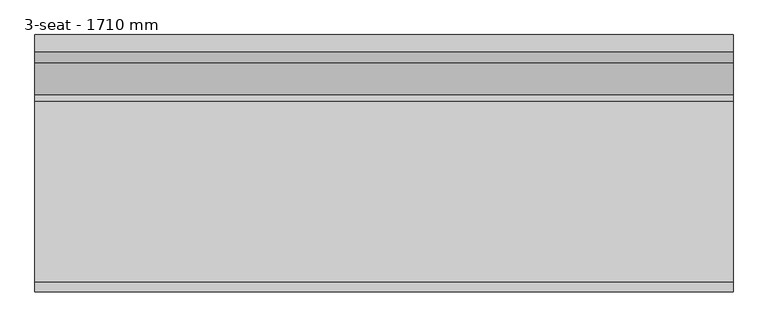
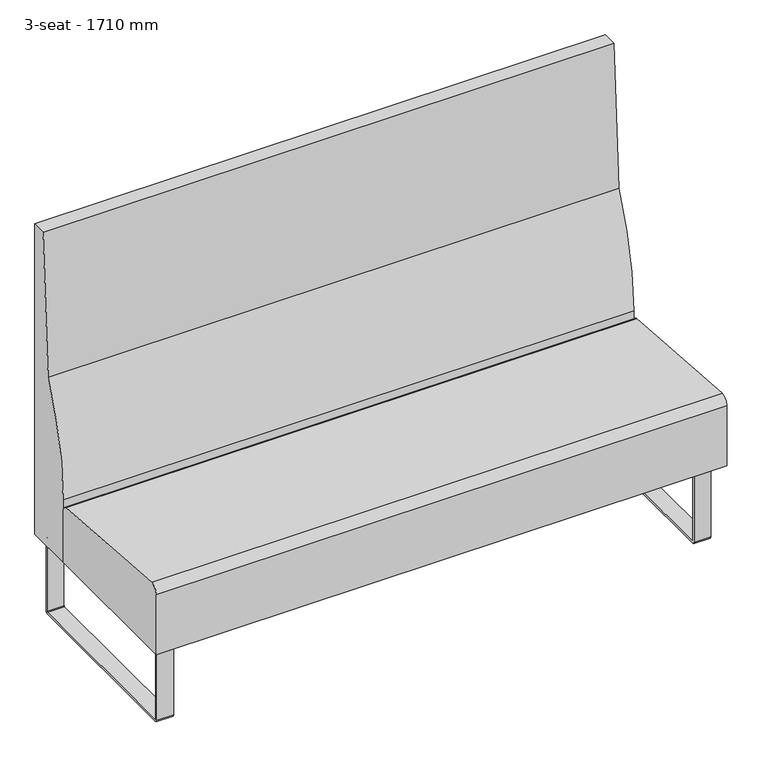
"""IFC4 building model written with IfcOpenShell, lengths in millimetres: furniture geometry, MATERIA-Monolite-Sofa-Extended_Back : 3-seat - 1710 mm."""

from ifc_helpers import new_model, si_unit, point, frame, frame_2d, origin, place, context, project, spatial, polyline, circle_curve, trimmed, segment, composite_curve, outline, extrude, source, transform, mapped, element, save


def furniture_3_seat_1710_mm_4decf27b(model_context):
    return source(origin(), model_context, "Body", "SweptSolid", [
        extrude(outline(composite_curve([segment(trimmed(circle_curve(frame_2d((-23.0000292, 239.0000149)), 8.0), [point((-23.0000292, 247.0000149))], [point((-15.0000292, 239.0000149))], False, "CARTESIAN"), True, "CONTINUOUS"), segment(polyline([(-15.0000292, 239.0000149), (-15.0000292, 8.0)]), True, "CONTINUOUS"), segment(trimmed(circle_curve(frame_2d((-23.0000292, 8.0)), 8.0), [point((-15.0000292, 8.0))], [point((-23.0000292, 0.0))], False, "CARTESIAN"), True, "CONTINUOUS"), segment(polyline([(-23.0000292, 0.0), (-582.0, 0.0)]), True, "CONTINUOUS"), segment(trimmed(circle_curve(frame_2d((-582.0, 8.0)), 8.0), [point((-582.0, 0.0))], [point((-590.0, 8.0))], False, "CARTESIAN"), True, "CONTINUOUS"), segment(polyline([(-590.0, 8.0), (-590.0, 248.000015), (-584.0, 248.000015), (-584.0, 8.0)]), True, "CONTINUOUS"), segment(trimmed(circle_curve(frame_2d((-582.0, 8.0)), 2.0), [point((-584.0, 8.0))], [point((-582.0, 6.0))], True, "CARTESIAN"), True, "CONTINUOUS"), segment(polyline([(-582.0, 6.0), (-23.0000292, 6.0)]), True, "CONTINUOUS"), segment(trimmed(circle_curve(frame_2d((-23.0000292, 8.0)), 2.0), [point((-23.0000292, 6.0))], [point((-21.0000292, 8.0))], True, "CARTESIAN"), True, "CONTINUOUS"), segment(polyline([(-21.0000292, 8.0), (-21.0000292, 239.0000149)]), True, "CONTINUOUS"), segment(trimmed(circle_curve(frame_2d((-23.0000292, 239.0000149)), 2.0), [point((-21.0000292, 239.0000149))], [point((-23.0000292, 241.0000149))], True, "CARTESIAN"), True, "CONTINUOUS"), segment(polyline([(-23.0000292, 241.0000149), (-123.0000504, 241.0000149), (-123.0000504, 247.0000149), (-23.0000292, 247.0000149)]), True, "CONTINUOUS")], self_intersect=False)), frame((779.9999917, 0.0, 0.0), z_axis=(1.0, 0.0, 0.0), x_axis=(0.0, 1.0, 0.0)), (0.0, 0.0, 1.0), 49.999964),
        extrude(outline(composite_curve([segment(trimmed(circle_curve(frame_2d((-23.0000292, 239.0000149)), 8.0), [point((-23.0000292, 247.0000149))], [point((-15.0000292, 239.0000149))], False, "CARTESIAN"), True, "CONTINUOUS"), segment(polyline([(-15.0000292, 239.0000149), (-15.0000292, 8.0)]), True, "CONTINUOUS"), segment(trimmed(circle_curve(frame_2d((-23.0000292, 8.0)), 8.0), [point((-15.0000292, 8.0))], [point((-23.0000292, 0.0))], False, "CARTESIAN"), True, "CONTINUOUS"), segment(polyline([(-23.0000292, 0.0), (-582.0, 0.0)]), True, "CONTINUOUS"), segment(trimmed(circle_curve(frame_2d((-582.0, 8.0)), 8.0), [point((-582.0, 0.0))], [point((-590.0, 8.0))], False, "CARTESIAN"), True, "CONTINUOUS"), segment(polyline([(-590.0, 8.0), (-590.0, 248.000015), (-584.0, 248.000015), (-584.0, 8.0)]), True, "CONTINUOUS"), segment(trimmed(circle_curve(frame_2d((-582.0, 8.0)), 2.0), [point((-584.0, 8.0))], [point((-582.0, 6.0))], True, "CARTESIAN"), True, "CONTINUOUS"), segment(polyline([(-582.0, 6.0), (-23.0000292, 6.0)]), True, "CONTINUOUS"), segment(trimmed(circle_curve(frame_2d((-23.0000292, 8.0)), 2.0), [point((-23.0000292, 6.0))], [point((-21.0000292, 8.0))], True, "CARTESIAN"), True, "CONTINUOUS"), segment(polyline([(-21.0000292, 8.0), (-21.0000292, 239.0000149)]), True, "CONTINUOUS"), segment(trimmed(circle_curve(frame_2d((-23.0000292, 239.0000149)), 2.0), [point((-21.0000292, 239.0000149))], [point((-23.0000292, 241.0000149))], True, "CARTESIAN"), True, "CONTINUOUS"), segment(polyline([(-23.0000292, 241.0000149), (-123.0000504, 241.0000149), (-123.0000504, 247.0000149), (-23.0000292, 247.0000149)]), True, "CONTINUOUS")], self_intersect=False)), frame((-829.9999557, 0.0, 0.0), z_axis=(1.0, 0.0, 0.0), x_axis=(0.0, 1.0, 0.0)), (0.0, 0.0, 1.0), 49.999964),
        extrude(outline(composite_curve([segment(polyline([(-147.0000389, 248.000015), (-630.0, 248.000015), (-630.0, 437.2884276)]), True, "CONTINUOUS"), segment(trimmed(circle_curve(frame_2d((-605.0000646, 437.2884276)), 24.9999354), [point((-630.0, 437.2884276))], [point((-605.4110478, 462.2849846))], False, "CARTESIAN"), True, "CONTINUOUS"), segment(trimmed(circle_curve(frame_2d((-564.312542, -2037.3815818)), 2500.0044061), [point((-605.4110478, 462.2849846))], [point((-163.7959115, 430.3316226))], False, "CARTESIAN"), True, "CONTINUOUS"), segment(trimmed(circle_curve(frame_2d((-167.0000389, 410.5899518)), 20.0), [point((-163.7959115, 430.3316226))], [point((-147.0000389, 410.5899518))], False, "CARTESIAN"), True, "CONTINUOUS"), segment(polyline([(-147.0000389, 410.5899518), (-147.0000389, 248.000015)]), True, "CONTINUOUS")], self_intersect=False)), frame((-855.0, 0.0, 0.0), z_axis=(1.0, 0.0, 0.0), x_axis=(0.0, 1.0, 0.0)), (0.0, 0.0, 1.0), 1710.0),
        extrude(outline(composite_curve([segment(polyline([(-147.0000389, 248.000015), (-147.0000389, 446.0000099)]), True, "CONTINUOUS"), segment(trimmed(circle_curve(frame_2d((627.5678884, 446.0000099)), 774.5679273), [point((-147.0000389, 446.0000099))], [point((-68.6091531, 785.5482405))], False, "CARTESIAN"), True, "CONTINUOUS"), segment(trimmed(circle_curve(frame_2d((4491.9277809, 744.7839853)), 4560.7191156), [point((-68.6091531, 785.5482405))], [point((-42.9067552, 1230.0))], False, "CARTESIAN"), True, "CONTINUOUS"), segment(polyline([(-42.9067552, 1230.0), (0.0, 1230.0), (0.0, 248.000015), (-147.0000389, 248.000015)]), True, "CONTINUOUS")], self_intersect=False)), frame((-855.0, 0.0, 0.0), z_axis=(1.0, 0.0, 0.0), x_axis=(0.0, 1.0, 0.0)), (0.0, 0.0, 1.0), 1710.0),
    ])


if __name__ == "__main__":
    model = new_model("IFC4")
    model_context = context("Model", 3, world=origin())
    ifc_project = project(units=[si_unit("LENGTHUNIT", "METRE", prefix="MILLI")], contexts=[model_context])
    site = spatial("IfcSite", under=ifc_project)
    building = spatial("IfcBuilding", under=site)
    placement = place(None, origin())
    furniture_3_seat_1710_mm_shape = furniture_3_seat_1710_mm_4decf27b(model_context)
    element("IfcFurniture", 1, ObjectType="MATERIA-Monolite-Sofa-Extended_Back : 3-seat - 1710 mm", at=placement, inside=building, context=model_context, shape_type="MappedRepresentation", body=[
        mapped(furniture_3_seat_1710_mm_shape, transform((0.0, 0.0, 0.0), x_axis=(1.0, 0.0, 0.0), y_axis=(0.0, 1.0, 0.0), z_axis=(0.0, 0.0, 1.0))),
    ])
    save(model, "model.ifc")
